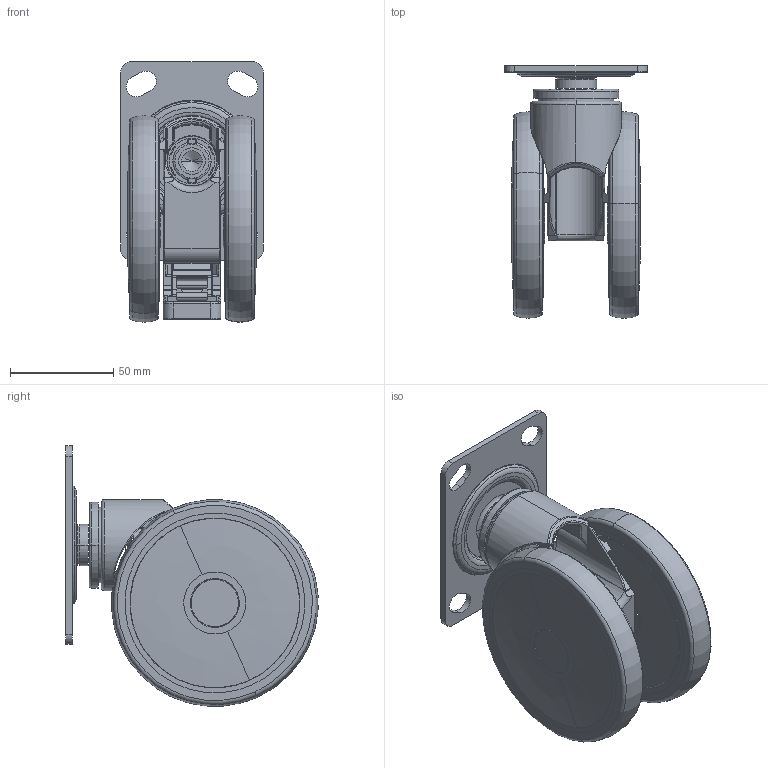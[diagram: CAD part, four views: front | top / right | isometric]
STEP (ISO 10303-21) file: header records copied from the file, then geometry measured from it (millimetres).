
FILE_DESCRIPTION((''),'2;1');
FILE_NAME('PRT0051','2026-04-14T18:11:39',('Administrator'),(''),'CREO PARAMETRIC BY PTC INC, 2022124','CREO PARAMETRIC BY PTC INC, 2022124','');
FILE_SCHEMA(('AUTOMOTIVE_DESIGN { 1 0 10303 214 1 1 1 1 }'));
Length unit declared in the file: millimetre
Products named in the file (1): PRT0051
Bounding box: 69 x 121.9 x 125.9 mm (x, y, z)
Surface area: 74954.4 mm2 (no closed solid volume)
Topology: 0 solids, 54 shells, 313 faces, 1308 edges, 1027 vertices
Faces by surface type: cylinder 112, plane 100, torus 62, bspline 24, cone 13, extrusion 2
Entity records: 18453 total; most frequent: CARTESIAN_POINT 5706, DIRECTION 2258, ORIENTED_EDGE 1801, EDGE_CURVE 1306, VERTEX_POINT 1027, AXIS2_PLACEMENT_3D 851, CIRCLE 554, VECTOR 553
